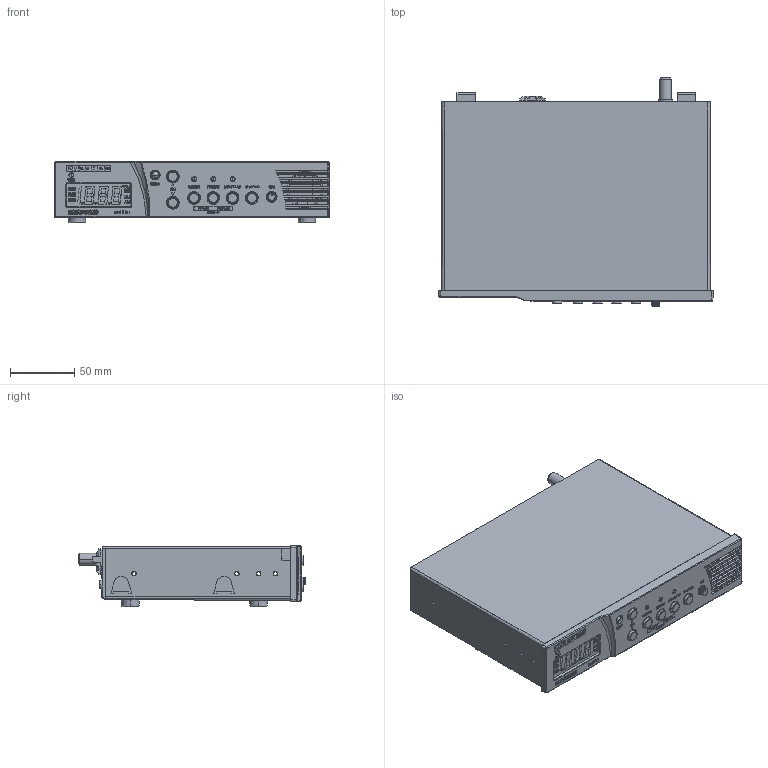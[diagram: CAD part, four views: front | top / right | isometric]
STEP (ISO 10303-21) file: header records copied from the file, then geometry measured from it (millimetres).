
FILE_DESCRIPTION(/* description */ (''),/* implementation_level */ '2;1');
FILE_NAME(/* name */ 'ER3311',/* time_stamp */ '2015-02-26T13:22:12+09:00',/* author */ (''),/* organization */ (''),/* preprocessor_version */ 'ST-DEVELOPER v10',/* originating_system */ '',/* authorisation */ '');
FILE_SCHEMA (('CONFIG_CONTROL_DESIGN'));
Products named in the file (1): 1
Bounding box: 214 x 177.58 x 47.69 mm (x, y, z)
Volume: 154320 mm3; surface area: 241499.9 mm2
Topology: 35 solids, 408 shells, 3157 faces, 10867 edges, 8327 vertices
Faces by surface type: plane 2116, bspline 1041
Entity records: 140843 total; most frequent: CARTESIAN_POINT 77290, ORIENTED_EDGE 18014, EDGE_CURVE 10829, B_SPLINE_CURVE_WITH_KNOTS 8538, VERTEX_POINT 8327, EDGE_LOOP 3664, ADVANCED_FACE 3157, FACE_OUTER_BOUND 3157
